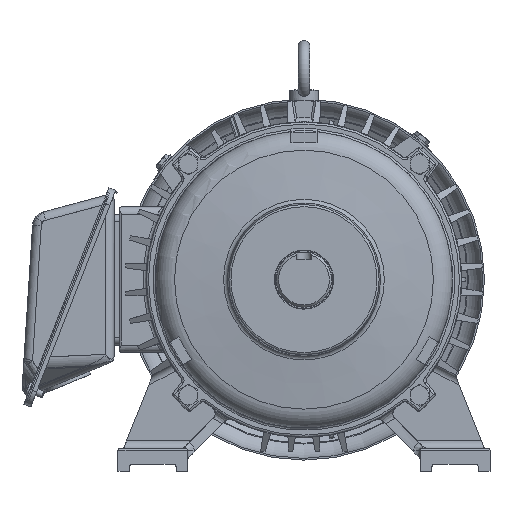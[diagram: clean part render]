
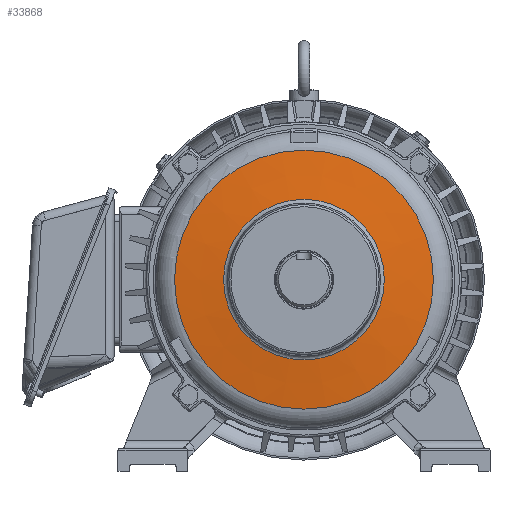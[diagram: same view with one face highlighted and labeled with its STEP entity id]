
A CAD part, front view. The second image highlights one B-rep face of the part: STEP entity #33868.
In plain terms, the highlighted conical face has half-angle 83.367 degrees and reference radius 53 mm.
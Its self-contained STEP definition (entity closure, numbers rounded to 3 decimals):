
#2373=CONICAL_SURFACE('',#36126,53.,1.455);
#2929=CIRCLE('',#36127,55.28);
#2930=CIRCLE('',#36128,89.082);
#6581=ORIENTED_EDGE('',*,*,#14048,.T.);
#6582=ORIENTED_EDGE('',*,*,#14049,.T.);
#14048=EDGE_CURVE('',#17991,#17991,#2929,.T.);
#14049=EDGE_CURVE('',#17992,#17992,#2930,.T.);
#17991=VERTEX_POINT('',#54631);
#17992=VERTEX_POINT('',#54633);
#23515=EDGE_LOOP('',(#6581));
#23516=EDGE_LOOP('',(#6582));
#25656=FACE_BOUND('',#23515,.T.);
#25657=FACE_BOUND('',#23516,.T.);
#33868=ADVANCED_FACE('',(#25656,#25657),#2373,.T.);
#36126=AXIS2_PLACEMENT_3D('',#54629,#40822,#40823);
#36127=AXIS2_PLACEMENT_3D('',#54630,#40824,#40825);
#36128=AXIS2_PLACEMENT_3D('',#54632,#40826,#40827);
#40822=DIRECTION('',(0.,1.,0.));
#40823=DIRECTION('',(-1.,0.,0.));
#40824=DIRECTION('',(0.,1.,0.));
#40825=DIRECTION('',(-1.,0.,0.));
#40826=DIRECTION('',(0.,-1.,0.));
#40827=DIRECTION('',(1.,0.,0.));
#54629=CARTESIAN_POINT('',(0.,10.,0.));
#54630=CARTESIAN_POINT('',(0.,10.265,0.));
#54631=CARTESIAN_POINT('',(-55.28,10.265,0.));
#54632=CARTESIAN_POINT('',(0.,14.196,0.));
#54633=CARTESIAN_POINT('',(89.082,14.196,0.));
